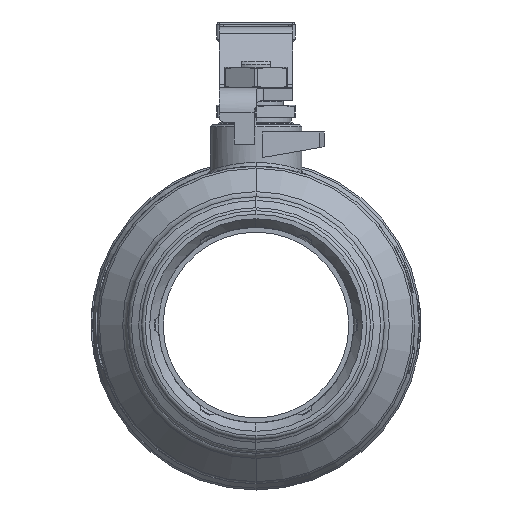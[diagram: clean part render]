
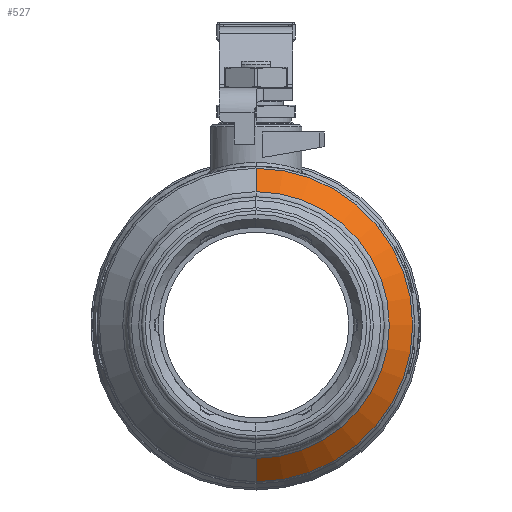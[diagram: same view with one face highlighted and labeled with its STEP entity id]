
A CAD part, left-side view. The second image highlights one B-rep face of the part: STEP entity #527.
In plain terms, the highlighted conical face has half-angle 45 degrees and reference radius 2.336 mm.
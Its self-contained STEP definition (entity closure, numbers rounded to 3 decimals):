
#432 = TOROIDAL_SURFACE('',#433,2.343,0.276);
#433 = AXIS2_PLACEMENT_3D('',#434,#435,#436);
#434 = CARTESIAN_POINT('',(-101.252,41.787,0.));
#435 = DIRECTION('',(-1.,0.,0.));
#436 = DIRECTION('',(0.,0.007,-1.));
#448 = VERTEX_POINT('',#449);
#449 = CARTESIAN_POINT('',(-101.057,41.787,2.148));
#478 = VERTEX_POINT('',#479);
#479 = CARTESIAN_POINT('',(-101.057,41.787,-2.148)
  );
#501 = EDGE_CURVE('',#478,#448,#502,.T.);
#502 = SURFACE_CURVE('',#503,(#508,#515),.PCURVE_S1.);
#503 = CIRCLE('',#504,2.148);
#504 = AXIS2_PLACEMENT_3D('',#505,#506,#507);
#505 = CARTESIAN_POINT('',(-101.057,41.787,0.));
#506 = DIRECTION('',(-1.,0.,0.));
#507 = DIRECTION('',(-0.,0.,-1.));
#508 = PCURVE('',#432,#509);
#509 = DEFINITIONAL_REPRESENTATION('',(#510),#514);
#510 = LINE('',#511,#512);
#511 = CARTESIAN_POINT('',(0.007,3.927));
#512 = VECTOR('',#513,1.);
#513 = DIRECTION('',(1.,0.));
#514 = ( GEOMETRIC_REPRESENTATION_CONTEXT(2) 
PARAMETRIC_REPRESENTATION_CONTEXT() REPRESENTATION_CONTEXT('2D SPACE',''
  ) );
#515 = PCURVE('',#516,#521);
#516 = CONICAL_SURFACE('',#517,2.336,0.785);
#517 = AXIS2_PLACEMENT_3D('',#518,#519,#520);
#518 = CARTESIAN_POINT('',(-100.869,41.787,0.));
#519 = DIRECTION('',(1.,0.,0.));
#520 = DIRECTION('',(0.,0.,-1.));
#521 = DEFINITIONAL_REPRESENTATION('',(#522),#526);
#522 = LINE('',#523,#524);
#523 = CARTESIAN_POINT('',(6.283,-0.188));
#524 = VECTOR('',#525,1.);
#525 = DIRECTION('',(-1.,0.));
#526 = ( GEOMETRIC_REPRESENTATION_CONTEXT(2) 
PARAMETRIC_REPRESENTATION_CONTEXT() REPRESENTATION_CONTEXT('2D SPACE',''
  ) );
#527 = ADVANCED_FACE('',(#528),#516,.T.);
#528 = FACE_BOUND('',#529,.T.);
#529 = EDGE_LOOP('',(#530,#602,#631,#652));
#530 = ORIENTED_EDGE('',*,*,#531,.T.);
#531 = EDGE_CURVE('',#478,#532,#534,.T.);
#532 = VERTEX_POINT('',#533);
#533 = CARTESIAN_POINT('',(-100.68,41.787,-2.524)
  );
#534 = SURFACE_CURVE('',#535,(#539,#568),.PCURVE_S1.);
#535 = LINE('',#536,#537);
#536 = CARTESIAN_POINT('',(-101.057,41.787,-2.148)
  );
#537 = VECTOR('',#538,1.);
#538 = DIRECTION('',(0.707,0.,-0.707)
  );
#539 = PCURVE('',#516,#540);
#540 = DEFINITIONAL_REPRESENTATION('',(#541),#567);
#541 = B_SPLINE_CURVE_WITH_KNOTS('',3,(#542,#543,#544,#545,#546,#547,
    #548,#549,#550,#551,#552,#553,#554,#555,#556,#557,#558,#559,#560,
    #561,#562,#563,#564,#565,#566),.UNSPECIFIED.,.F.,.F.,(4,1,1,1,1,1,1,
    1,1,1,1,1,1,1,1,1,1,1,1,1,1,1,4),(0.,
    0.024,0.048,0.073,
    0.097,0.121,0.145,0.17,
    0.194,0.218,0.242,0.266,
    0.291,0.315,0.339,0.363,
    0.388,0.412,0.436,0.46,
    0.484,0.509,0.533),.UNSPECIFIED.);
#542 = CARTESIAN_POINT('',(6.283,-0.188));
#543 = CARTESIAN_POINT('',(6.283,-0.183));
#544 = CARTESIAN_POINT('',(6.283,-0.171));
#545 = CARTESIAN_POINT('',(6.283,-0.154));
#546 = CARTESIAN_POINT('',(6.283,-0.137));
#547 = CARTESIAN_POINT('',(6.283,-0.12));
#548 = CARTESIAN_POINT('',(6.283,-0.103));
#549 = CARTESIAN_POINT('',(6.283,-0.086));
#550 = CARTESIAN_POINT('',(6.283,-0.069));
#551 = CARTESIAN_POINT('',(6.283,-0.051));
#552 = CARTESIAN_POINT('',(6.283,-0.034));
#553 = CARTESIAN_POINT('',(6.283,-0.017));
#554 = CARTESIAN_POINT('',(6.283,0.));
#555 = CARTESIAN_POINT('',(6.283,0.017));
#556 = CARTESIAN_POINT('',(6.283,0.034));
#557 = CARTESIAN_POINT('',(6.283,0.051));
#558 = CARTESIAN_POINT('',(6.283,0.069));
#559 = CARTESIAN_POINT('',(6.283,0.086));
#560 = CARTESIAN_POINT('',(6.283,0.103));
#561 = CARTESIAN_POINT('',(6.283,0.12));
#562 = CARTESIAN_POINT('',(6.283,0.137));
#563 = CARTESIAN_POINT('',(6.283,0.154));
#564 = CARTESIAN_POINT('',(6.283,0.171));
#565 = CARTESIAN_POINT('',(6.283,0.183));
#566 = CARTESIAN_POINT('',(6.283,0.188));
#567 = ( GEOMETRIC_REPRESENTATION_CONTEXT(2) 
PARAMETRIC_REPRESENTATION_CONTEXT() REPRESENTATION_CONTEXT('2D SPACE',''
  ) );
#568 = PCURVE('',#569,#574);
#569 = CONICAL_SURFACE('',#570,2.336,0.785);
#570 = AXIS2_PLACEMENT_3D('',#571,#572,#573);
#571 = CARTESIAN_POINT('',(-100.869,41.787,0.));
#572 = DIRECTION('',(1.,0.,0.));
#573 = DIRECTION('',(0.,0.,-1.));
#574 = DEFINITIONAL_REPRESENTATION('',(#575),#601);
#575 = B_SPLINE_CURVE_WITH_KNOTS('',3,(#576,#577,#578,#579,#580,#581,
    #582,#583,#584,#585,#586,#587,#588,#589,#590,#591,#592,#593,#594,
    #595,#596,#597,#598,#599,#600),.UNSPECIFIED.,.F.,.F.,(4,1,1,1,1,1,1,
    1,1,1,1,1,1,1,1,1,1,1,1,1,1,1,4),(0.,
    0.024,0.048,0.073,
    0.097,0.121,0.145,0.17,
    0.194,0.218,0.242,0.266,
    0.291,0.315,0.339,0.363,
    0.388,0.412,0.436,0.46,
    0.484,0.509,0.533),.UNSPECIFIED.);
#576 = CARTESIAN_POINT('',(0.,-0.188));
#577 = CARTESIAN_POINT('',(0.,-0.183));
#578 = CARTESIAN_POINT('',(0.,-0.171));
#579 = CARTESIAN_POINT('',(0.,-0.154));
#580 = CARTESIAN_POINT('',(0.,-0.137));
#581 = CARTESIAN_POINT('',(0.,-0.12));
#582 = CARTESIAN_POINT('',(0.,-0.103));
#583 = CARTESIAN_POINT('',(0.,-0.086));
#584 = CARTESIAN_POINT('',(0.,-0.069));
#585 = CARTESIAN_POINT('',(0.,-0.051));
#586 = CARTESIAN_POINT('',(0.,-0.034));
#587 = CARTESIAN_POINT('',(0.,-0.017));
#588 = CARTESIAN_POINT('',(0.,0.));
#589 = CARTESIAN_POINT('',(0.,0.017));
#590 = CARTESIAN_POINT('',(0.,0.034));
#591 = CARTESIAN_POINT('',(0.,0.051));
#592 = CARTESIAN_POINT('',(0.,0.069));
#593 = CARTESIAN_POINT('',(0.,0.086));
#594 = CARTESIAN_POINT('',(0.,0.103));
#595 = CARTESIAN_POINT('',(0.,0.12));
#596 = CARTESIAN_POINT('',(0.,0.137));
#597 = CARTESIAN_POINT('',(0.,0.154));
#598 = CARTESIAN_POINT('',(0.,0.171));
#599 = CARTESIAN_POINT('',(0.,0.183));
#600 = CARTESIAN_POINT('',(0.,0.188));
#601 = ( GEOMETRIC_REPRESENTATION_CONTEXT(2) 
PARAMETRIC_REPRESENTATION_CONTEXT() REPRESENTATION_CONTEXT('2D SPACE',''
  ) );
#602 = ORIENTED_EDGE('',*,*,#603,.F.);
#603 = EDGE_CURVE('',#604,#532,#606,.T.);
#604 = VERTEX_POINT('',#605);
#605 = CARTESIAN_POINT('',(-100.68,41.787,2.524));
#606 = SURFACE_CURVE('',#607,(#612,#619),.PCURVE_S1.);
#607 = CIRCLE('',#608,2.524);
#608 = AXIS2_PLACEMENT_3D('',#609,#610,#611);
#609 = CARTESIAN_POINT('',(-100.68,41.787,0.));
#610 = DIRECTION('',(1.,0.,0.));
#611 = DIRECTION('',(-0.,0.,1.));
#612 = PCURVE('',#516,#613);
#613 = DEFINITIONAL_REPRESENTATION('',(#614),#618);
#614 = LINE('',#615,#616);
#615 = CARTESIAN_POINT('',(3.142,0.188));
#616 = VECTOR('',#617,1.);
#617 = DIRECTION('',(1.,0.));
#618 = ( GEOMETRIC_REPRESENTATION_CONTEXT(2) 
PARAMETRIC_REPRESENTATION_CONTEXT() REPRESENTATION_CONTEXT('2D SPACE',''
  ) );
#619 = PCURVE('',#620,#625);
#620 = TOROIDAL_SURFACE('',#621,2.441,0.118);
#621 = AXIS2_PLACEMENT_3D('',#622,#623,#624);
#622 = CARTESIAN_POINT('',(-100.597,41.787,0.));
#623 = DIRECTION('',(-1.,0.,0.));
#624 = DIRECTION('',(0.,0.006,1.));
#625 = DEFINITIONAL_REPRESENTATION('',(#626),#630);
#626 = LINE('',#627,#628);
#627 = CARTESIAN_POINT('',(6.277,0.785));
#628 = VECTOR('',#629,1.);
#629 = DIRECTION('',(-1.,0.));
#630 = ( GEOMETRIC_REPRESENTATION_CONTEXT(2) 
PARAMETRIC_REPRESENTATION_CONTEXT() REPRESENTATION_CONTEXT('2D SPACE',''
  ) );
#631 = ORIENTED_EDGE('',*,*,#632,.F.);
#632 = EDGE_CURVE('',#448,#604,#633,.T.);
#633 = SURFACE_CURVE('',#634,(#638,#645),.PCURVE_S1.);
#634 = LINE('',#635,#636);
#635 = CARTESIAN_POINT('',(-101.057,41.787,2.148));
#636 = VECTOR('',#637,1.);
#637 = DIRECTION('',(0.707,0.,0.707));
#638 = PCURVE('',#516,#639);
#639 = DEFINITIONAL_REPRESENTATION('',(#640),#644);
#640 = LINE('',#641,#642);
#641 = CARTESIAN_POINT('',(3.142,-0.188));
#642 = VECTOR('',#643,1.);
#643 = DIRECTION('',(0.,1.));
#644 = ( GEOMETRIC_REPRESENTATION_CONTEXT(2) 
PARAMETRIC_REPRESENTATION_CONTEXT() REPRESENTATION_CONTEXT('2D SPACE',''
  ) );
#645 = PCURVE('',#569,#646);
#646 = DEFINITIONAL_REPRESENTATION('',(#647),#651);
#647 = LINE('',#648,#649);
#648 = CARTESIAN_POINT('',(3.142,-0.188));
#649 = VECTOR('',#650,1.);
#650 = DIRECTION('',(0.,1.));
#651 = ( GEOMETRIC_REPRESENTATION_CONTEXT(2) 
PARAMETRIC_REPRESENTATION_CONTEXT() REPRESENTATION_CONTEXT('2D SPACE',''
  ) );
#652 = ORIENTED_EDGE('',*,*,#501,.F.);
